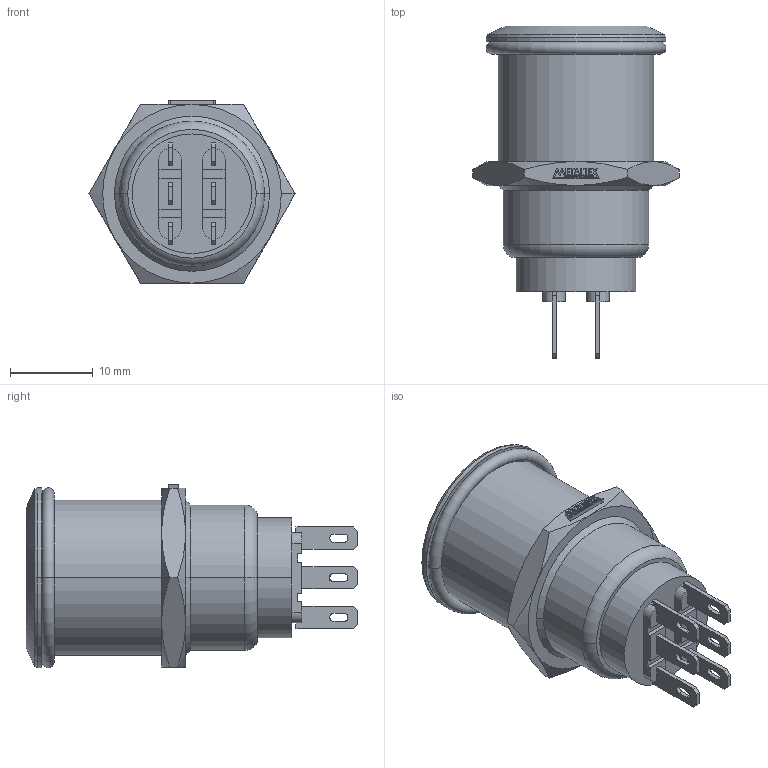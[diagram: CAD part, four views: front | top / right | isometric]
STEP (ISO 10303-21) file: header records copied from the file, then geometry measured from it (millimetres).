
FILE_DESCRIPTION (( 'STEP AP203' ), '1' );
FILE_NAME ('AV19R.STEP', '2018-01-17T14:29:07', ( '' ), ( '' ), 'SwSTEP 2.0', 'SolidWorks 2012', '' );
FILE_SCHEMA (( 'CONFIG_CONTROL_DESIGN' ));
Length unit declared in the file: millimetre
Products named in the file (3): AV19R; METALTEX 5,62
Assembly tree (2 placements, depth 2):
  AV19R
    AV19R
    METALTEX 5,62
Bounding box: 25 x 40.2 x 22.23 mm (x, y, z)
Volume: 8814.4 mm3; surface area: 3412.3 mm2
Topology: 8 solids, 8 shells, 255 faces, 659 edges, 430 vertices
Faces by surface type: plane 194, cylinder 37, cone 18, torus 4, sphere 2
Entity records: 8094 total; most frequent: CARTESIAN_POINT 1493, ORIENTED_EDGE 1318, DIRECTION 1259, EDGE_CURVE 659, LINE 531, VECTOR 531, VERTEX_POINT 430, AXIS2_PLACEMENT_3D 364
